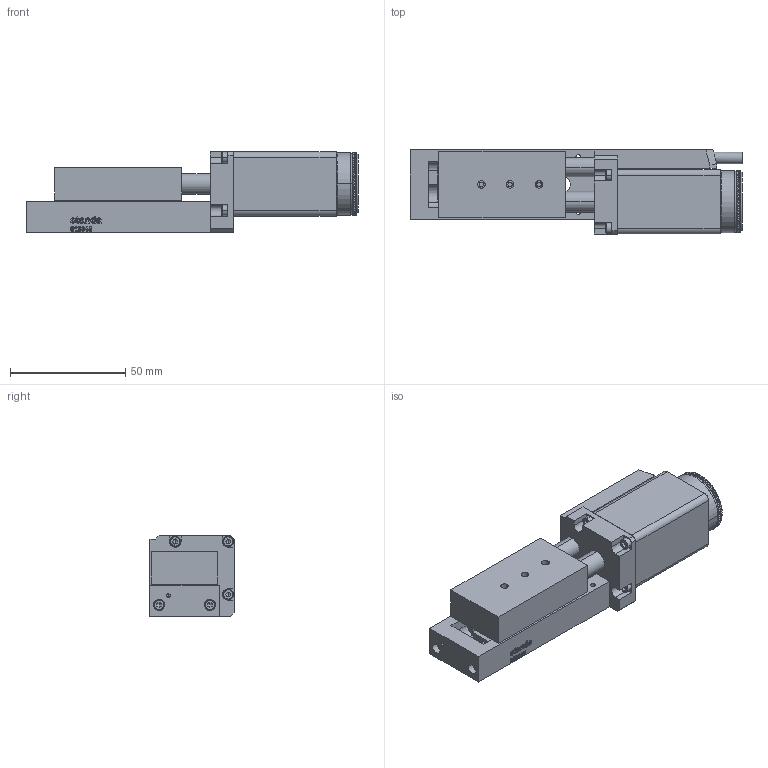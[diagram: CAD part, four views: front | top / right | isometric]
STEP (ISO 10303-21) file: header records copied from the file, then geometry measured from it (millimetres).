
FILE_DESCRIPTION (( 'STEP AP203' ), '1' );
FILE_NAME ('8MT173-30.STEP', '2008-10-03T01:04:31', ( 'Darius' ), ( '' ), 'SwSTEP 2.0', 'SolidWorks 2003240', '' );
FILE_SCHEMA (( 'CONFIG_CONTROL_DESIGN' ));
Length unit declared in the file: millimetre
Products named in the file (1): 8MT173-30
Bounding box: 144 x 36.5 x 35 mm (x, y, z)
Volume: 107753.4 mm3; surface area: 33307.3 mm2
Topology: 1 solids, 19 shells, 1368 faces, 3617 edges, 2339 vertices
Faces by surface type: cylinder 593, plane 585, bspline 142, cone 48
Entity records: 46217 total; most frequent: CARTESIAN_POINT 12812, ORIENTED_EDGE 7178, DIRECTION 6727, EDGE_CURVE 3589, AXIS2_PLACEMENT_3D 2478, VERTEX_POINT 2339, VECTOR 1771, LINE 1771
